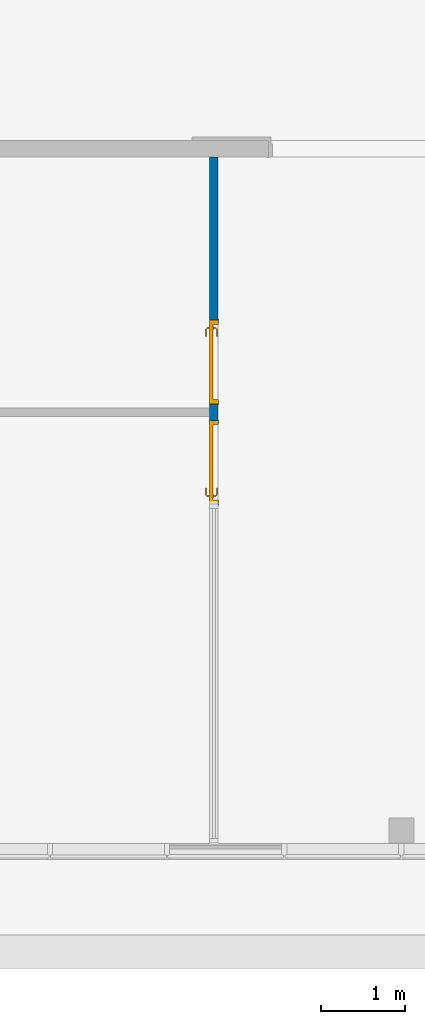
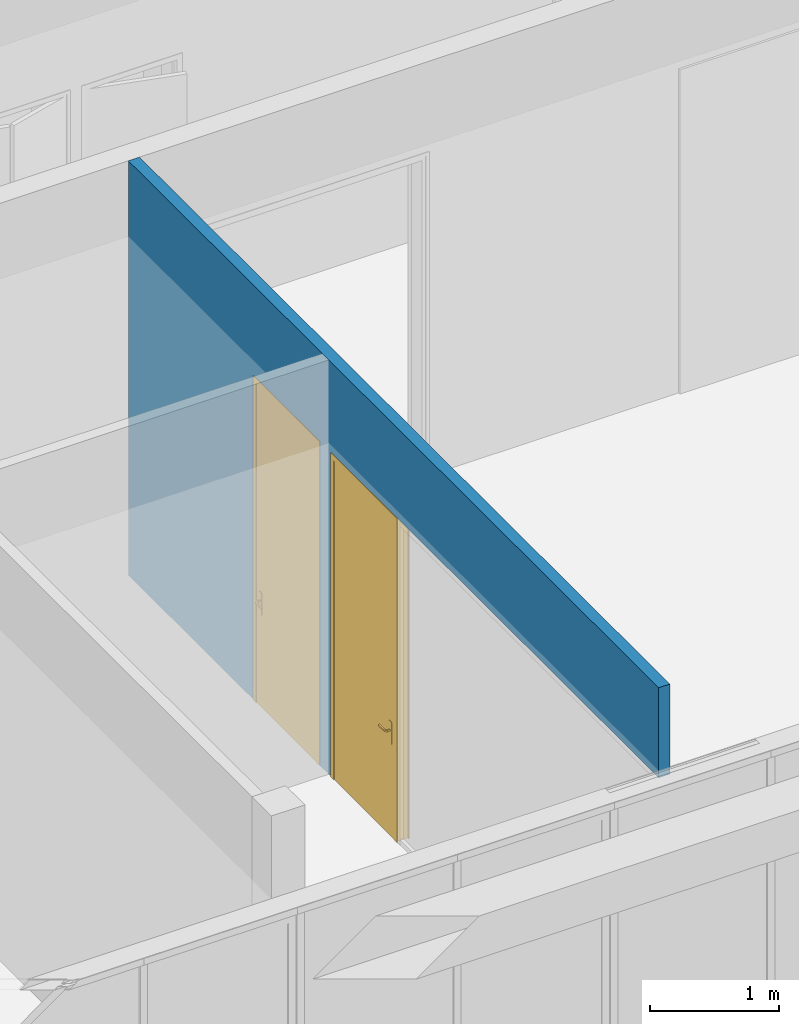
# One storey, part 162 of 240: 2 doors, 1 wall, 3 openings.
"""IFC2X3 building model written with IfcOpenShell, lengths in centimetres."""

from ifc_helpers import new_model, entity, si_unit, converted_unit, derived_unit, direction, frame, frame_2d, origin, place, context, subcontext, project, spatial, polyline, rectangle, outline, extrude, clip, bounded_halfspace, faceted_brep, source, transform, mapped, material, material_list, layer, layer_set, layer_usage, type_object, type_shapes, element, fill, save


model = new_model("IFC2X3")

# Units and contexts
model_context = context("Model", 3, precision=0.001, world=origin(), true_north=direction((6.12303176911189e-17, 1.0)))
body_context = subcontext(model_context, "Body", "Model", "MODEL_VIEW")
ifc_project = project(units=[si_unit("LENGTHUNIT", "METRE", prefix="CENTI"), si_unit("AREAUNIT", "SQUARE_METRE"), si_unit("VOLUMEUNIT", "CUBIC_METRE"), converted_unit("PLANEANGLEUNIT", "DEGREE", entity("IfcRatioMeasure", 0.0174532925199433), si_unit("PLANEANGLEUNIT", "RADIAN"), dimensions=[0, 0, 0, 0, 0, 0, 0]), si_unit("MASSUNIT", "GRAM", prefix="KILO"), derived_unit("MASSDENSITYUNIT", [(si_unit("MASSUNIT", "GRAM", prefix="KILO"), 1), (si_unit("LENGTHUNIT", "METRE"), -3)]), si_unit("TIMEUNIT", "SECOND"), si_unit("FREQUENCYUNIT", "HERTZ"), si_unit("THERMODYNAMICTEMPERATUREUNIT", "DEGREE_CELSIUS"), derived_unit("THERMALTRANSMITTANCEUNIT", [(si_unit("MASSUNIT", "GRAM", prefix="KILO"), 1), (si_unit("THERMODYNAMICTEMPERATUREUNIT", "KELVIN"), -1), (si_unit("TIMEUNIT", "SECOND"), -3)]), derived_unit("VOLUMETRICFLOWRATEUNIT", [(si_unit("LENGTHUNIT", "METRE"), 3), (si_unit("TIMEUNIT", "SECOND"), -1)]), si_unit("ELECTRICCURRENTUNIT", "AMPERE"), si_unit("ELECTRICVOLTAGEUNIT", "VOLT"), si_unit("POWERUNIT", "WATT"), si_unit("FORCEUNIT", "NEWTON", prefix="KILO"), si_unit("ILLUMINANCEUNIT", "LUX"), si_unit("LUMINOUSFLUXUNIT", "LUMEN"), si_unit("LUMINOUSINTENSITYUNIT", "CANDELA"), derived_unit("USERDEFINED", [(si_unit("MASSUNIT", "GRAM", prefix="KILO"), -1), (si_unit("LENGTHUNIT", "METRE"), -2), (si_unit("TIMEUNIT", "SECOND"), 3), (si_unit("LUMINOUSFLUXUNIT", "LUMEN"), 1)]), derived_unit("LINEARVELOCITYUNIT", [(si_unit("LENGTHUNIT", "METRE"), 1), (si_unit("TIMEUNIT", "SECOND"), -1)]), si_unit("PRESSUREUNIT", "PASCAL"), derived_unit("USERDEFINED", [(si_unit("LENGTHUNIT", "METRE"), -2), (si_unit("MASSUNIT", "GRAM", prefix="KILO"), 1), (si_unit("TIMEUNIT", "SECOND"), -2)])], contexts=[model_context])

# Site, building, storey
site_placement = place(None, frame((-2781.94577612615, 7442.24238424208, 0.0)))
site = spatial("IfcSite", under=ifc_project, at=site_placement, Name="Default", CompositionType="ELEMENT")
building_placement = place(site_placement, origin())
building = spatial("IfcBuilding", under=site, at=building_placement, CompositionType="ELEMENT")
storey_placement = place(building_placement, origin())
storey = spatial("IfcBuildingStorey", under=building, at=storey_placement, Name="N00 - COO", CompositionType="ELEMENT", Elevation=0.0)

# Wall, openings, doors
ifc_material_1 = material(Name="01 - Enduit/Plâtre")
ifc_layer_1 = layer(ifc_material_1, 1.3)
ifc_material_2 = material(Name="00 - Isolant")
ifc_layer_2 = layer(ifc_material_2, 7.4)
ifc_layer_3 = layer(ifc_material_1, 1.3)
ifc_layer_set = layer_set([ifc_layer_1, ifc_layer_2, ifc_layer_3], Name="Mur de base:06 - cloisons - Ba13 10cm")
ifc_layer_usage = layer_usage(ifc_layer_set, "AXIS2", "NEGATIVE", 5.0)
wall_type = type_object("IfcWallType", Name="Mur de base:06 - cloisons - Ba13 10cm", PredefinedType="STANDARD", material=ifc_layer_set)
wall_placement = place(building_placement, frame((-2174.19987968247, -3030.31349958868, 0.0), z_axis=(0.0, 0.0, 1.0), x_axis=(0.0, 1.0, 0.0)))
wall = element("IfcWallStandardCase", 1, at=wall_placement, inside=storey, type_object=wall_type, material=ifc_layer_usage, Name="Mur de base:06 - cloisons - Ba13 10cm", ObjectType="Mur de base:06 - cloisons - Ba13 10cm", context=body_context, shape_type="Clipping", body=[
    clip(extrude(rectangle(XDim=820.156932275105, YDim=10.0000000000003, at=frame_2d((410.078466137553, 7.46069872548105e-14), x_axis=(-1.0, 0.0))), origin(), (0.0, 0.0, 1.0), 391.0), bounded_halfspace(frame((820.156932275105, -5.0, 391.0), z_axis=(0.0, 0.0, -1.0), x_axis=(1.0, 0.0, 0.0)), True, frame((820.156932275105, -5.0, 391.0)), polyline([(0.0, 0.0), (0.0, 10.0), (-300.0, 10.0), (-310.0, 10.0), (-795.156932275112, 10.0), (-795.156932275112, 0.0), (0.0, 0.0)]))),
])
opening_1_placement = place(wall_placement, origin())
element("IfcOpeningElement", 2, at=opening_1_placement, cuts=wall, Name="Mur de base:06 - cloisons - Ba13 10cm", ObjectType="Opening", context=body_context, shape_type="SweptSolid", body=[
    extrude(outline(polyline([(-271.271288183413, -102.5), (137.385644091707, -102.5), (137.385644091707, -101.0), (133.885644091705, -101.0), (133.885644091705, 203.5), (-271.271288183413, 203.5), (-271.271288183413, -102.5)])), frame((271.271288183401, -20.2399999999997, 203.5), z_axis=(0.0, 1.0, 0.0), x_axis=(1.0, 0.0, 0.0)), (0.0, 0.0, 1.0), 40.4799999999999),
])
opening_2_placement = place(wall_placement, frame((525.156932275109, -5.0, 0.0)))
opening_2 = element("IfcOpeningElement", 3, at=opening_2_placement, cuts=wall, Name="Int. Simple:PV (0.93m x 3.00m):1", ObjectType="Opening", context=body_context, shape_type="SweptSolid", body=[
    extrude(rectangle(XDim=304.500000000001, YDim=99.9999999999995, at=frame_2d((152.250000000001, 49.9999999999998), x_axis=(1.0, 0.0))), frame((0.0, 0.0, 0.0), z_axis=(0.0, 1.0, 0.0), x_axis=(0.0, 0.0, 1.0)), (0.0, 0.0, 1.0), 10.0),
])
opening_3_placement = place(wall_placement, frame((405.156932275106, -5.0, 0.0)))
opening_3 = element("IfcOpeningElement", 4, at=opening_3_placement, cuts=wall, Name="Int. Simple:PV (0.93m x 3.00m):1", ObjectType="Opening", context=body_context, shape_type="SweptSolid", body=[
    extrude(rectangle(XDim=304.500000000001, YDim=99.9999999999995, at=frame_2d((152.250000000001, 49.9999999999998), x_axis=(1.0, 0.0))), frame((0.0, 0.0, 0.0), z_axis=(0.0, 1.0, 0.0), x_axis=(0.0, 0.0, 1.0)), (0.0, 0.0, 1.0), 10.0),
])
ifc_material_3 = material(Name="Finition Peinture - Blanc satiné")
ifc_material_4 = material(Name="Bois - Panneau de porte")
ifc_material_5 = material(Name="Bois - Cadre de porte")
ifc_material_list_1 = material_list([ifc_material_3, ifc_material_4, ifc_material_5])
ifc_material_list_2 = material_list([ifc_material_3, ifc_material_4, ifc_material_5])
door_style_1 = type_object("IfcDoorStyle", Name="PV (0.93m x 3.00m)", ConstructionType="NOTDEFINED", OperationType="SINGLE_SWING_RIGHT", ParameterTakesPrecedence=False, Sizeable=False, material=ifc_material_list_2)
shared_shape_1 = source(origin(), body_context, "Body", "Brep", [
    faceted_brep([(99.5000000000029, -0.500000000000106, 87.0), (99.5000000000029, -0.500000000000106, 108.0), (98.535276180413, -0.500000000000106, 108.399601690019), (97.5000000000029, -0.500000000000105, 108.535898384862), (96.4647238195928, -0.500000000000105, 108.399601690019), (95.500000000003, -0.500000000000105, 108.0), (95.5000000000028, -0.500000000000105, 87.0), (96.4647238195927, -0.500000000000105, 86.6003983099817), (97.5000000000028, -0.500000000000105, 86.464101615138), (98.5352761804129, -0.500000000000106, 86.6003983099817), (99.5000000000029, 0.0, 108.0), (99.5000000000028, 0.0, 87.0), (98.5352761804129, 0.0, 86.6003983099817), (97.5000000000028, 0.0, 86.464101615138), (96.4647238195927, 0.0, 86.6003983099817), (95.5000000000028, 0.0, 87.0), (95.5000000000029, 0.0, 108.0), (96.4647238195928, 0.0, 108.399601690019), (97.5000000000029, 0.0, 108.535898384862), (98.535276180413, 0.0, 108.399601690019)], [[[0, 1, 2, 3, 4, 5, 6, 7, 8, 9]], [[10, 11, 12, 13, 14, 15, 16, 17, 18, 19]], [[9, 12, 11, 0]], [[8, 13, 12, 9]], [[7, 14, 13, 8]], [[7, 6, 15, 14]], [[15, 6, 5, 16]], [[4, 17, 16, 5]], [[3, 18, 17, 4]], [[2, 19, 18, 3]], [[2, 1, 10, 19]], [[11, 10, 1, 0]]]),
    faceted_brep([(99.5000000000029, 4.0, 87.0), (99.5000000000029, 4.0, 108.0), (98.535276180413, 4.0, 108.399601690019), (97.5000000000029, 4.0, 108.535898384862), (96.4647238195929, 4.0, 108.399601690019), (95.500000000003, 4.0, 108.0), (95.5000000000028, 4.0, 87.0), (96.4647238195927, 4.0, 86.6003983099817), (97.5000000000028, 4.0, 86.464101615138), (98.5352761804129, 4.0, 86.6003983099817), (97.5000000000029, 4.49999999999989, 108.535898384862), (98.535276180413, 4.49999999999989, 108.399601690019), (99.5000000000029, 4.49999999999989, 108.0), (99.5000000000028, 4.49999999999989, 87.0), (98.5352761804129, 4.49999999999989, 86.6003983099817), (97.5000000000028, 4.49999999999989, 86.464101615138), (96.4647238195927, 4.49999999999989, 86.6003983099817), (95.5000000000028, 4.49999999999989, 87.0), (95.500000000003, 4.49999999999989, 108.0), (96.4647238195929, 4.49999999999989, 108.399601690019)], [[[0, 1, 2, 3, 4, 5, 6, 7, 8, 9]], [[10, 11, 12, 13, 14, 15, 16, 17, 18, 19]], [[4, 19, 18, 5]], [[3, 10, 19, 4]], [[2, 11, 10, 3]], [[2, 1, 12, 11]], [[13, 12, 1, 0]], [[9, 14, 13, 0]], [[8, 15, 14, 9]], [[7, 16, 15, 8]], [[7, 6, 17, 16]], [[17, 6, 5, 18]]]),
    faceted_brep([(97.2974701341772, -0.50000000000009, 100.778044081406), (97.7025298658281, -0.500000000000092, 100.778044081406), (98.1000000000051, -0.500000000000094, 100.699999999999), (98.100000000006, -0.500000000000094, 99.2999999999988), (97.7025298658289, -0.500000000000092, 99.221955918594), (97.297470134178, -0.50000000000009, 99.2219559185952), (96.9000000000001, -0.500000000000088, 99.3000000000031), (96.9000000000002, -0.500000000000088, 100.7), (97.7025298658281, -3.10045754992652, 100.778044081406), (98.1000000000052, -3.26509507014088, 100.7), (97.2974701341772, -2.93267631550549, 100.778044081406), (95.9298602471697, -4.30028620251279, 100.778044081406), (96.0976414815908, -4.70534593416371, 100.778044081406), (96.9000000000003, -2.76803879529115, 100.7), (96.9000000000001, -2.76803879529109, 99.3000000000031), (97.297470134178, -2.93267631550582, 99.2219559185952), (97.7025298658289, -3.10045754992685, 99.221955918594), (96.0976414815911, -4.70534593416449, 99.221955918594), (95.9298602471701, -4.30028620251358, 99.2219559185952), (98.100000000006, -3.26509507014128, 99.2999999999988), (96.2622790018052, -5.10281606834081, 100.7), (95.7652227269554, -3.90281606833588, 100.7), (95.7652227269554, -3.90281606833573, 99.3000000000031), (96.2622790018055, -5.10281606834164, 99.2999999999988), (87.4981359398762, -5.10281606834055, 100.7), (87.4981359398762, -4.70534593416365, 100.778044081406), (87.4981359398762, -4.30028620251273, 100.778044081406), (87.4981359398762, -3.90281606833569, 100.699999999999), (87.4981359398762, -3.90281606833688, 99.3000000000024), (87.4981359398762, -4.30028620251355, 99.2219559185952), (87.4981359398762, -4.70534593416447, 99.221955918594), (87.4981359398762, -5.10281606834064, 99.2999999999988), (91.7139980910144, -4.5028160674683, 100.78786867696), (92.2692302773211, -5.1028160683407, 100.7), (91.6316793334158, -3.9028160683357, 100.7), (91.631679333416, -3.9028160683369, 99.3000000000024), (91.7139981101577, -4.50281607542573, 99.2121313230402), (92.2692310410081, -5.10281606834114, 99.2999999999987)], [[[0, 1, 2, 3, 4, 5, 6, 7]], [[2, 1, 8, 9]], [[1, 0, 10, 11, 12, 8]], [[0, 7, 13, 10]], [[14, 13, 7, 6]], [[5, 15, 14, 6]], [[5, 4, 16, 17, 18, 15]], [[3, 19, 16, 4]], [[9, 19, 3, 2]], [[9, 8, 12, 20]], [[10, 13, 21, 11]], [[22, 21, 13, 14]], [[14, 15, 18, 22]], [[16, 19, 23, 17]], [[20, 23, 19, 9]], [[24, 25, 26, 27, 28, 29, 30, 31]], [[32, 25, 33]], [[33, 25, 24]], [[33, 20, 12]], [[11, 34, 32]], [[34, 11, 21]], [[27, 26, 34]], [[32, 26, 25]], [[32, 34, 26]], [[32, 33, 12]], [[11, 32, 12]], [[21, 22, 35, 28, 27, 34]], [[36, 29, 35]], [[30, 36, 37]], [[18, 35, 22]], [[29, 28, 35]], [[30, 37, 31]], [[37, 17, 23]], [[36, 17, 37]], [[36, 18, 17]], [[36, 35, 18]], [[29, 36, 30]], [[23, 20, 33, 24, 31, 37]]]),
    faceted_brep([(97.2974701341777, 4.49999999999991, 99.2219559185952), (97.7025298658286, 4.49999999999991, 99.221955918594), (98.1000000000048, 4.4999999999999, 99.2999999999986), (98.1000000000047, 4.4999999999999, 100.7), (97.7025298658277, 4.49999999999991, 100.778044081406), (97.2974701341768, 4.49999999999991, 100.778044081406), (96.8999999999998, 4.49999999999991, 100.7), (96.900000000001, 4.49999999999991, 99.3000000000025), (96.8999999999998, 6.7485204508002, 100.7), (96.8999999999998, 6.74852045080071, 99.3000000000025), (97.2974701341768, 6.91315797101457, 100.778044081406), (97.7025298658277, 7.0809392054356, 100.778044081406), (96.0838906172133, 8.69957845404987, 100.778044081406), (95.9161093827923, 8.29451872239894, 100.778044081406), (98.1000000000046, 7.24557672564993, 100.7), (98.1000000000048, 7.24557672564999, 99.2999999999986), (97.7025298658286, 7.08093920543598, 99.221955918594), (97.2974701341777, 6.91315797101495, 99.2219559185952), (95.9161093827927, 8.29451872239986, 99.2219559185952), (96.0838906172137, 8.69957845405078, 99.221955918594), (95.751471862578, 7.89704858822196, 100.7), (95.7514718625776, 7.89704858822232, 99.3000000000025), (96.2485281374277, 9.09704858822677, 100.7), (96.2485281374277, 9.09704858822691, 99.2999999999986), (87.4954216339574, 8.29451872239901, 100.778044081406), (87.4954216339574, 8.69957845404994, 100.778044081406), (87.4954216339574, 9.09704858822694, 100.7), (87.4954216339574, 9.09704858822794, 99.2999999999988), (87.4954216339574, 8.6995784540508, 99.221955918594), (87.4954216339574, 8.29451872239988, 99.2219559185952), (87.4954216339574, 7.89704858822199, 99.3000000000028), (87.4954216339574, 7.89704858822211, 100.7), (91.6234467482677, 7.89704858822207, 100.7), (91.6234479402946, 7.89704858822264, 99.3000000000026), (91.7057655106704, 8.49704858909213, 100.78786867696), (92.255479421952, 9.09704858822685, 100.7), (92.2554795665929, 9.09704858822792, 99.2999999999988), (91.7057654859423, 8.49704858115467, 99.2121313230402)], [[[0, 1, 2, 3, 4, 5, 6, 7]], [[8, 9, 7, 6]], [[5, 10, 8, 6]], [[5, 4, 11, 12, 13, 10]], [[3, 14, 11, 4]], [[14, 3, 2, 15]], [[2, 1, 16, 15]], [[1, 0, 17, 18, 19, 16]], [[0, 7, 9, 17]], [[20, 21, 9, 8]], [[8, 10, 13, 20]], [[14, 22, 12, 11]], [[23, 22, 14, 15]], [[15, 16, 19, 23]], [[17, 9, 21, 18]], [[24, 25, 26, 27, 28, 29, 30, 31]], [[21, 20, 32, 31, 30, 33]], [[34, 24, 32]], [[25, 34, 35]], [[13, 32, 20]], [[24, 31, 32]], [[25, 35, 26]], [[35, 12, 22]], [[34, 12, 35]], [[34, 13, 12]], [[34, 32, 13]], [[24, 34, 25]], [[22, 23, 36, 27, 26, 35]], [[37, 28, 36]], [[36, 28, 27]], [[36, 23, 19]], [[18, 33, 37]], [[33, 18, 21]], [[30, 29, 33]], [[37, 29, 28]], [[37, 33, 29]], [[37, 36, 19]], [[18, 37, 19]]]),
    faceted_brep([(103.500000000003, 4.0, 301.0), (103.500000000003, 4.0, 0.0), (10.5000000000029, 4.0, 0.0), (10.5000000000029, 4.0, 301.0), (103.500000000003, 0.0, 301.0), (10.5000000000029, 0.0, 301.0), (10.5000000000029, 0.0, 0.0), (103.500000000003, 0.0, 0.0)], [[[0, 1, 2, 3]], [[4, 5, 6, 7]], [[3, 5, 4, 0]], [[2, 6, 5, 3]], [[1, 7, 6, 2]], [[0, 4, 7, 1]]]),
    faceted_brep([(107.0, 10.0, 0.0), (107.0, 0.0, 0.0), (108.500000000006, 0.0, 0.0), (108.500000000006, -0.500000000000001, 0.0), (103.500000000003, -0.500000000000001, 0.0), (103.500000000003, 4.0, 0.0), (102.0, 4.0, 0.0), (102.0, 10.5000000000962, 0.0), (108.500000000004, 10.5000000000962, 0.0), (108.500000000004, 10.0, 0.0), (108.500000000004, 10.0, 306.0), (5.50000000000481, 10.0, 306.0), (5.50000000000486, 10.0, 0.0), (7.0, 10.0, 0.0), (7.0, 10.0, 304.500000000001), (107.0, 10.0, 304.500000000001), (108.500000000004, 10.5000000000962, 306.0), (102.0, 10.5000000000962, 299.5), (12.0, 10.5000000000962, 299.5), (12.0, 10.5000000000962, 0.0), (5.50000000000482, 10.5000000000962, 0.0), (5.50000000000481, 10.5000000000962, 306.0), (102.0, 4.0, 299.5), (103.500000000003, 4.0, 301.0), (10.5000000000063, 4.0, 301.0), (10.5000000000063, 4.0, 0.0), (12.0, 4.0, 0.0), (12.0, 4.0, 299.5), (103.500000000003, -0.500000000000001, 301.0), (108.500000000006, -0.500000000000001, 306.0), (5.5000000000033, -0.500000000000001, 306.0), (5.50000000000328, -0.500000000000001, 0.0), (10.5000000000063, -0.500000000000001, 0.0), (10.5000000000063, -0.500000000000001, 301.0), (108.500000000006, 0.0, 306.0), (107.0, 0.0, 304.500000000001), (7.0, 0.0, 304.500000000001), (7.0, 0.0, 0.0), (5.5000000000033, 0.0, 0.0), (5.50000000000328, 0.0, 306.0)], [[[0, 1, 2, 3, 4, 5, 6, 7, 8, 9]], [[9, 10, 11, 12, 13, 14, 15, 0]], [[8, 16, 10, 9]], [[7, 17, 18, 19, 20, 21, 16, 8]], [[7, 6, 22, 17]], [[5, 23, 24, 25, 26, 27, 22, 6]], [[5, 4, 28, 23]], [[3, 29, 30, 31, 32, 33, 28, 4]], [[2, 34, 29, 3]], [[1, 35, 36, 37, 38, 39, 34, 2]], [[0, 15, 35, 1]], [[14, 13, 37, 36]], [[13, 12, 20, 19, 26, 25, 32, 31, 38, 37]], [[21, 20, 12, 11]], [[27, 26, 19, 18]], [[33, 32, 25, 24]], [[39, 38, 31, 30]], [[15, 14, 36, 35]], [[16, 21, 11, 10]], [[22, 27, 18, 17]], [[28, 33, 24, 23]], [[34, 39, 30, 29]]]),
])
type_shapes(door_style_1, [shared_shape_1])
door_1_placement = place(opening_3_placement, frame((107.0, 10.0, 0.0), z_axis=(0.0, 0.0, 1.0), x_axis=(-1.0, 0.0, 0.0)))
door_1 = element("IfcDoor", 5, at=door_1_placement, inside=storey, type_object=door_style_1, material=ifc_material_list_1, Name="Int. Simple:PV (0.93m x 3.00m)", ObjectType="Int. Simple:PV (0.93m x 3.00m)", OverallHeight=304.500000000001, OverallWidth=99.9999999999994, context=body_context, shape_type="MappedRepresentation", body=[
    mapped(shared_shape_1, transform((0.0, 0.0, 0.0), scale=1.0)),
])
fill(opening_3, door_1)
ifc_material_list_3 = material_list([ifc_material_3, ifc_material_4, ifc_material_5])
ifc_material_list_4 = material_list([ifc_material_3, ifc_material_4, ifc_material_5])
door_style_2 = type_object("IfcDoorStyle", Name="PV (0.93m x 3.00m)", ConstructionType="NOTDEFINED", OperationType="SINGLE_SWING_LEFT", ParameterTakesPrecedence=False, Sizeable=False, material=ifc_material_list_4)
shared_shape_2 = source(origin(), body_context, "Body", "Brep", [
    faceted_brep([(10.5352761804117, -0.500000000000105, 86.6003983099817), (11.5000000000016, -0.500000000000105, 87.0), (11.5000000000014, -0.500000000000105, 108.0), (10.5352761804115, -0.500000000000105, 108.399601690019), (9.50000000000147, -0.500000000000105, 108.535898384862), (8.46472381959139, -0.500000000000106, 108.399601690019), (7.50000000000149, -0.500000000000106, 108.0), (7.50000000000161, -0.500000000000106, 87.0), (8.46472381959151, -0.500000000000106, 86.6003983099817), (9.50000000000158, -0.500000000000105, 86.464101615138), (10.5352761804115, 0.0, 108.399601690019), (11.5000000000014, 0.0, 108.0), (11.5000000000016, 0.0, 87.0), (10.5352761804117, 0.0, 86.6003983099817), (9.50000000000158, 0.0, 86.464101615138), (8.46472381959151, 0.0, 86.6003983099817), (7.50000000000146, 0.0, 87.0), (7.50000000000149, 0.0, 108.0), (8.46472381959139, 0.0, 108.399601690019), (9.50000000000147, 0.0, 108.535898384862)], [[[0, 1, 2, 3, 4, 5, 6, 7, 8, 9]], [[10, 11, 12, 13, 14, 15, 16, 17, 18, 19]], [[16, 15, 8, 7]], [[8, 15, 14, 9]], [[14, 13, 0, 9]], [[13, 12, 1, 0]], [[2, 1, 12, 11]], [[11, 10, 3, 2]], [[3, 10, 19, 4]], [[19, 18, 5, 4]], [[18, 17, 6, 5]], [[7, 6, 17, 16]]]),
    faceted_brep([(10.5352761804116, 4.0, 86.6003983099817), (11.5000000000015, 4.0, 87.0), (11.5000000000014, 4.0, 108.0), (10.5352761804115, 4.0, 108.399601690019), (9.50000000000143, 4.0, 108.535898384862), (8.46472381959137, 4.0, 108.399601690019), (7.50000000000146, 4.0, 108.0), (7.50000000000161, 4.0, 87.0), (8.46472381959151, 4.0, 86.6003983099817), (9.50000000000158, 4.0, 86.464101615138), (10.5352761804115, 4.49999999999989, 108.399601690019), (11.5000000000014, 4.49999999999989, 108.0), (11.5000000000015, 4.49999999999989, 87.0), (10.5352761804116, 4.49999999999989, 86.6003983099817), (9.50000000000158, 4.49999999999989, 86.464101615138), (8.46472381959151, 4.49999999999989, 86.6003983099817), (7.50000000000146, 4.49999999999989, 87.0), (7.50000000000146, 4.49999999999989, 108.0), (8.46472381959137, 4.49999999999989, 108.399601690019), (9.50000000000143, 4.49999999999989, 108.535898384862)], [[[0, 1, 2, 3, 4, 5, 6, 7, 8, 9]], [[10, 11, 12, 13, 14, 15, 16, 17, 18, 19]], [[11, 10, 3, 2]], [[3, 10, 19, 4]], [[19, 18, 5, 4]], [[18, 17, 6, 5]], [[7, 6, 17, 16]], [[16, 15, 8, 7]], [[8, 15, 14, 9]], [[14, 13, 0, 9]], [[13, 12, 1, 0]], [[2, 1, 12, 11]]]),
    faceted_brep([(9.29747013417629, -0.500000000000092, 100.778044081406), (9.70252986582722, -0.50000000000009, 100.778044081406), (10.1000000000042, -0.500000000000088, 100.699999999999), (10.1000000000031, -0.500000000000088, 99.3000000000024), (9.7025298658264, -0.50000000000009, 99.2219559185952), (9.29747013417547, -0.500000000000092, 99.221955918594), (8.8999999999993, -0.500000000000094, 99.2999999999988), (8.89999999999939, -0.500000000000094, 100.7), (8.89999999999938, -3.26509507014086, 100.7), (9.29747013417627, -3.10045754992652, 100.778044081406), (10.9023585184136, -4.70534593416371, 100.778044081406), (11.0701397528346, -4.30028620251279, 100.778044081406), (9.7025298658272, -2.93267631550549, 100.778044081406), (10.1000000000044, -2.76803879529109, 100.7), (10.1000000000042, -2.76803879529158, 99.3000000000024), (9.7025298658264, -2.93267631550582, 99.2219559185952), (11.0701397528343, -4.30028620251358, 99.2219559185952), (10.9023585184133, -4.70534593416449, 99.221955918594), (9.29747013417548, -3.10045754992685, 99.221955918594), (8.89999999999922, -3.26509507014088, 99.2999999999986), (10.7377209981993, -5.10281606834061, 100.7), (11.2347772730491, -3.90281606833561, 100.7), (11.2347772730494, -3.90281606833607, 99.3000000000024), (10.7377209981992, -5.10281606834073, 99.2999999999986), (19.5018640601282, -5.10281606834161, 99.2999999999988), (19.5018640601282, -4.70534593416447, 99.221955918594), (19.5018640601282, -4.30028620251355, 99.2219559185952), (19.5018640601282, -3.9028160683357, 99.3000000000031), (19.5018640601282, -3.90281606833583, 100.7), (19.5018640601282, -4.30028620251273, 100.778044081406), (19.5018640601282, -4.70534593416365, 100.778044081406), (19.5018640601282, -5.10281606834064, 100.699999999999), (14.7307697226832, -5.10281606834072, 100.7), (15.2860019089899, -4.5028160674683, 100.78786867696), (15.3683206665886, -3.9028160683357, 100.7), (15.3683206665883, -3.9028160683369, 99.3000000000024), (15.2860018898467, -4.50281607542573, 99.2121313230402), (14.7307700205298, -5.10281606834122, 99.2999999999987)], [[[0, 1, 2, 3, 4, 5, 6, 7]], [[8, 9, 0, 7]], [[9, 10, 11, 12, 1, 0]], [[12, 13, 2, 1]], [[3, 2, 13, 14]], [[14, 15, 4, 3]], [[15, 16, 17, 18, 5, 4]], [[18, 19, 6, 5]], [[7, 6, 19, 8]], [[20, 10, 9, 8]], [[11, 21, 13, 12]], [[14, 13, 21, 22]], [[22, 16, 15, 14]], [[17, 23, 19, 18]], [[8, 19, 23, 20]], [[24, 25, 26, 27, 28, 29, 30, 31]], [[32, 30, 33]], [[31, 30, 32]], [[10, 20, 32]], [[33, 34, 11]], [[21, 11, 34]], [[34, 29, 28]], [[30, 29, 33]], [[29, 34, 33]], [[10, 32, 33]], [[10, 33, 11]], [[22, 21, 34, 28, 27, 35]], [[35, 26, 36]], [[37, 36, 25]], [[22, 35, 16]], [[35, 27, 26]], [[24, 37, 25]], [[23, 17, 37]], [[37, 17, 36]], [[17, 16, 36]], [[16, 35, 36]], [[25, 36, 26]], [[20, 23, 37, 24, 31, 32]]]),
    faceted_brep([(9.29747013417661, 4.49999999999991, 100.778044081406), (8.89999999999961, 4.4999999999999, 100.7), (8.89999999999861, 4.4999999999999, 99.2999999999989), (9.29747013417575, 4.49999999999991, 99.221955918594), (9.70252986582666, 4.49999999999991, 99.2219559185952), (10.1000000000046, 4.49999999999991, 99.3000000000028), (10.1000000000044, 4.49999999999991, 100.7), (9.70252986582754, 4.49999999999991, 100.778044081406), (10.1000000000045, 6.7485204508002, 99.3000000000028), (10.1000000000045, 6.74852045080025, 100.7), (9.70252986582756, 6.91315797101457, 100.778044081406), (11.083890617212, 8.29451872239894, 100.778044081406), (10.916109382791, 8.69957845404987, 100.778044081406), (9.29747013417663, 7.0809392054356, 100.778044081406), (8.89999999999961, 7.24557672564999, 100.7), (8.89999999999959, 7.2455767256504, 99.2999999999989), (9.29747013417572, 7.08093920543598, 99.221955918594), (10.9161093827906, 8.69957845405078, 99.221955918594), (11.0838906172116, 8.29451872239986, 99.2219559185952), (9.70252986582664, 6.91315797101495, 99.2219559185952), (11.2485281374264, 7.89704858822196, 99.3000000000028), (11.2485281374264, 7.89704858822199, 100.7), (10.7514718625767, 9.09704858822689, 100.7), (10.7514718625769, 9.0970485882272, 99.2999999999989), (19.5045783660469, 7.89704858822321, 99.3000000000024), (19.5045783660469, 8.29451872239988, 99.2219559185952), (19.5045783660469, 8.6995784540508, 99.221955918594), (19.5045783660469, 9.09704858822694, 99.2999999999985), (19.5045783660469, 9.09704858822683, 100.7), (19.5045783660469, 8.69957845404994, 100.778044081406), (19.5045783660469, 8.29451872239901, 100.778044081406), (19.5045783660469, 7.89704858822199, 100.7), (15.3765520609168, 7.89704858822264, 99.3000000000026), (15.3765532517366, 7.89704858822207, 100.7), (15.294234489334, 8.49704858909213, 100.78786867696), (14.7445205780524, 9.09704858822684, 100.7), (14.7445204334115, 9.09704858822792, 99.2999999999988), (15.2942345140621, 8.49704858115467, 99.2121313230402)], [[[0, 1, 2, 3, 4, 5, 6, 7]], [[6, 5, 8, 9]], [[9, 10, 7, 6]], [[10, 11, 12, 13, 0, 7]], [[13, 14, 1, 0]], [[2, 1, 14, 15]], [[15, 16, 3, 2]], [[16, 17, 18, 19, 4, 3]], [[19, 8, 5, 4]], [[9, 8, 20, 21]], [[21, 11, 10, 9]], [[12, 22, 14, 13]], [[15, 14, 22, 23]], [[23, 17, 16, 15]], [[18, 20, 8, 19]], [[24, 25, 26, 27, 28, 29, 30, 31]], [[21, 20, 32, 24, 31, 33]], [[33, 30, 34]], [[35, 34, 29]], [[21, 33, 11]], [[33, 31, 30]], [[28, 35, 29]], [[22, 12, 35]], [[35, 12, 34]], [[12, 11, 34]], [[11, 33, 34]], [[29, 34, 30]], [[22, 35, 28, 27, 36, 23]], [[36, 26, 37]], [[27, 26, 36]], [[17, 23, 36]], [[37, 32, 18]], [[20, 18, 32]], [[32, 25, 24]], [[26, 25, 37]], [[25, 32, 37]], [[17, 36, 37]], [[17, 37, 18]]]),
    faceted_brep([(3.50000000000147, 4.0, 301.0), (96.5000000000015, 4.0, 301.0), (96.5000000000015, 4.0, 0.0), (3.50000000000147, 4.0, 0.0), (3.50000000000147, 0.0, 301.0), (3.50000000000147, 0.0, 0.0), (96.5000000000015, 0.0, 0.0), (96.5000000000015, 0.0, 301.0)], [[[0, 1, 2, 3]], [[4, 5, 6, 7]], [[1, 0, 4, 7]], [[2, 1, 7, 6]], [[3, 2, 6, 5]], [[0, 3, 5, 4]]]),
    faceted_brep([(0.0, 10.0, 0.0), (-1.50000000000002, 10.0, 0.0), (-1.50000000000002, 10.5000000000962, 0.0), (5.0, 10.5000000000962, 0.0), (5.0, 4.0, 0.0), (3.50000000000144, 4.0, 0.0), (3.50000000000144, -0.500000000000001, 0.0), (-1.50000000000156, -0.500000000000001, 0.0), (-1.50000000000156, 0.0, 0.0), (0.0, 0.0, 0.0), (0.0, 10.0, 304.500000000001), (100.0, 10.0, 304.500000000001), (100.0, 10.0, 0.0), (101.5, 10.0, 0.0), (101.5, 10.0, 306.0), (-1.50000000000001, 10.0, 306.0), (-1.50000000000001, 10.5000000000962, 306.0), (101.5, 10.5000000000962, 306.0), (101.5, 10.5000000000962, 0.0), (95.0, 10.5000000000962, 0.0), (95.0, 10.5000000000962, 299.5), (5.0, 10.5000000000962, 299.5), (5.0, 4.0, 299.5), (95.0, 4.0, 299.5), (95.0, 4.0, 0.0), (96.4999999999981, 4.0, 0.0), (96.4999999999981, 4.0, 301.0), (3.50000000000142, 4.0, 301.0), (3.50000000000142, -0.500000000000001, 301.0), (96.4999999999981, -0.500000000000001, 301.0), (96.4999999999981, -0.500000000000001, 0.0), (101.500000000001, -0.500000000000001, 0.0), (101.500000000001, -0.500000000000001, 306.0), (-1.50000000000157, -0.500000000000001, 306.0), (-1.50000000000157, 0.0, 306.0), (101.500000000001, 0.0, 306.0), (101.500000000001, 0.0, 0.0), (100.0, 0.0, 0.0), (100.0, 0.0, 304.500000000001), (0.0, 0.0, 304.500000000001)], [[[0, 1, 2, 3, 4, 5, 6, 7, 8, 9]], [[1, 0, 10, 11, 12, 13, 14, 15]], [[2, 1, 15, 16]], [[3, 2, 16, 17, 18, 19, 20, 21]], [[3, 21, 22, 4]], [[5, 4, 22, 23, 24, 25, 26, 27]], [[5, 27, 28, 6]], [[7, 6, 28, 29, 30, 31, 32, 33]], [[8, 7, 33, 34]], [[9, 8, 34, 35, 36, 37, 38, 39]], [[0, 9, 39, 10]], [[11, 38, 37, 12]], [[12, 37, 36, 31, 30, 25, 24, 19, 18, 13]], [[17, 14, 13, 18]], [[23, 20, 19, 24]], [[29, 26, 25, 30]], [[35, 32, 31, 36]], [[10, 39, 38, 11]], [[16, 15, 14, 17]], [[22, 21, 20, 23]], [[28, 27, 26, 29]], [[34, 33, 32, 35]]]),
])
type_shapes(door_style_2, [shared_shape_2])
door_2_placement = place(opening_2_placement, frame((100.0, 10.0, 0.0), z_axis=(0.0, 0.0, 1.0), x_axis=(-1.0, 0.0, 0.0)))
door_2 = element("IfcDoor", 6, at=door_2_placement, inside=storey, type_object=door_style_2, material=ifc_material_list_3, Name="Int. Simple:PV (0.93m x 3.00m)", ObjectType="Int. Simple:PV (0.93m x 3.00m)", OverallHeight=304.500000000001, OverallWidth=99.9999999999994, context=body_context, shape_type="MappedRepresentation", body=[
    mapped(shared_shape_2, transform((0.0, 0.0, 0.0), scale=1.0)),
])
fill(opening_2, door_2)

save(model, "model.ifc")
